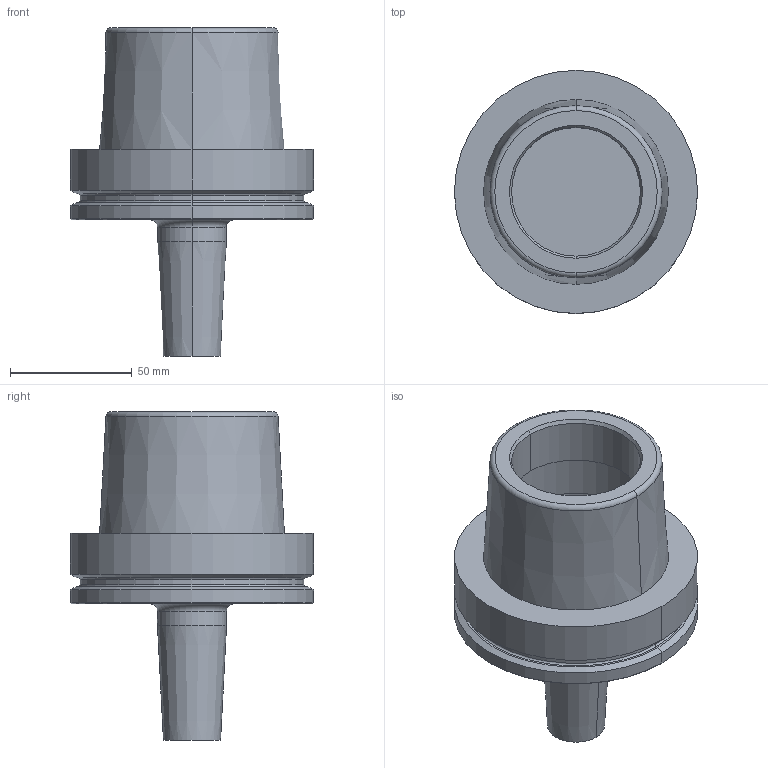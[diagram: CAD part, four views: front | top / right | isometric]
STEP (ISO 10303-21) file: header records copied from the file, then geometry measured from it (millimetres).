
FILE_DESCRIPTION(('no description'),'unknown implementation level');
FILE_NAME('solidvUr_31m81N3JxbhVPYUqYbHVmgw_1.STP',' ',('CIMSOURCE GmbH'),('CADClick - KiM GmbH - www.kimweb.de'),'unknown preprocess','ACIS','unknown authorization');
FILE_SCHEMA(('automotive_design'));
Length unit declared in the file: millimetre
Products named in the file (1): NOCUT
Bounding box: 100 x 100 x 135 mm (x, y, z)
Volume: 299861.7 mm3; surface area: 54164.3 mm2
Topology: 1 solids, 1 shells, 73 faces, 158 edges, 91 vertices
Faces by surface type: cylinder 29, cone 22, plane 12, torus 10
Entity records: 4037 total; most frequent: CARTESIAN_POINT 574, DIRECTION 377, STYLED_ITEM 321, PRESENTATION_STYLE_ASSIGNMENT 321, COLOUR_RGB 321, ORIENTED_EDGE 312, AXIS2_PLACEMENT_3D 159, EDGE_CURVE 156
